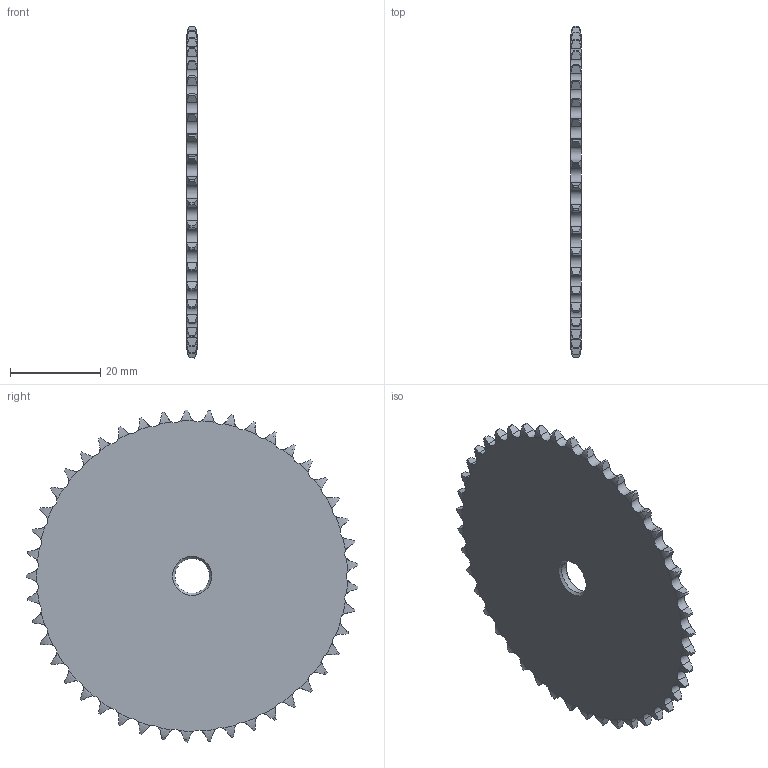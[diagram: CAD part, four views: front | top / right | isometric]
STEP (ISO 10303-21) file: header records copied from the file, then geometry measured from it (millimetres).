
FILE_DESCRIPTION(/* description */ (''),/* implementation_level */ '2;1');
FILE_NAME(/* name */ 'C:\Users\stagistaCAD\Desktop\20105045.stp',/* time_stamp */ '2018-06-26T16:44:15+02:00',/* author */ ('stagistacad'),/* organization */ (''),/* preprocessor_version */ 'ST-DEVELOPER v15.6',/* originating_system */ 'Autodesk Inventor 2015',/* authorisation */ '');
FILE_SCHEMA (('AUTOMOTIVE_DESIGN { 1 0 10303 214 3 1 1 }'));
Length unit declared in the file: millimetre
Products named in the file (1): 20105045
Bounding box: 2.3 x 73.69 x 73.72 mm (x, y, z)
Volume: 8803.8 mm3; surface area: 8440.2 mm2
Topology: 1 solids, 1 shells, 275 faces, 817 edges, 544 vertices
Faces by surface type: cylinder 181, torus 90, plane 2, cone 2
Full cylindrical faces by diameter (mm): 7.7 x1
Entity records: 10500 total; most frequent: CARTESIAN_POINT 3684, ORIENTED_EDGE 1628, DIRECTION 1192, EDGE_CURVE 814, VERTEX_POINT 544, AXIS2_PLACEMENT_3D 506, B_SPLINE_CURVE_WITH_KNOTS 404, EDGE_LOOP 280
